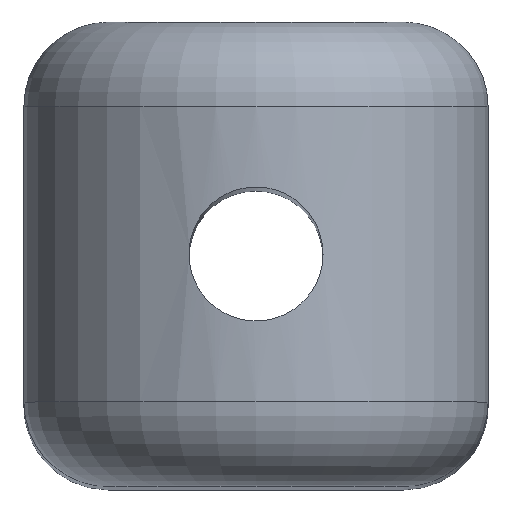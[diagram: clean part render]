
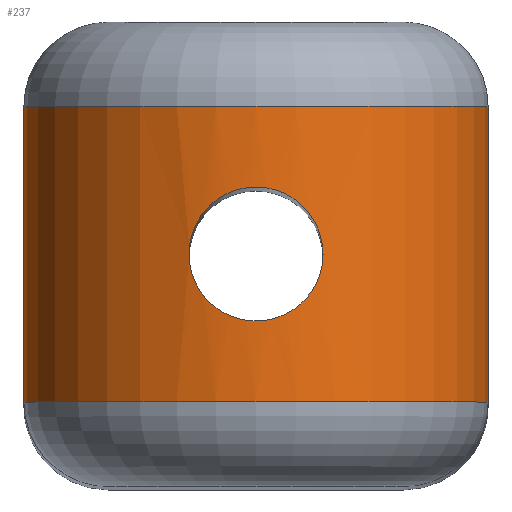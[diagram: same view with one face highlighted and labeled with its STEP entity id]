
A CAD part, top view. The second image highlights one B-rep face of the part: STEP entity #237.
In plain terms, the highlighted cylindrical face has radius 11 mm (diameter 22 mm), a partial arc.
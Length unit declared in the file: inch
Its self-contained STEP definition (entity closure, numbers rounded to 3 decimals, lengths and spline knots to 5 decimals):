
#16=FACE_BOUND('',#59,.T.);
#42=FACE_OUTER_BOUND('',#58,.T.);
#58=EDGE_LOOP('',(#210,#211,#212,#213));
#59=EDGE_LOOP('',(#214));
#60=B_SPLINE_CURVE_WITH_KNOTS('',3,(#361,#362,#363,#364,#365,#366,#367,
#368,#369,#370,#371,#372,#373,#374,#375,#376,#377,#378,#379,#380,#381,#382,
#383,#384,#385,#386,#387,#388,#389,#390,#391,#392,#393,#394),
 .UNSPECIFIED.,.T.,.F.,(4,2,2,2,2,2,2,2,2,2,2,2,2,2,2,2,4),(0.,0.12036,
0.24071,0.36104,0.48136,0.60169,
0.72201,0.84237,0.96272,1.08308,
1.20343,1.32376,1.44408,1.56441,1.68473,
1.80509,1.92544),.UNSPECIFIED.);
#71=LINE('',#427,#88);
#77=LINE('',#450,#94);
#88=VECTOR('',#320,0.55118);
#94=VECTOR('',#350,0.55118);
#98=CIRCLE('',#259,0.43307);
#102=CIRCLE('',#272,0.43307);
#105=VERTEX_POINT('',#359);
#107=VERTEX_POINT('',#397);
#111=VERTEX_POINT('',#406);
#116=VERTEX_POINT('',#426);
#118=VERTEX_POINT('',#432);
#124=EDGE_CURVE('',#105,#105,#60,.T.);
#130=EDGE_CURVE('',#111,#107,#98,.T.);
#140=EDGE_CURVE('',#107,#116,#71,.T.);
#147=EDGE_CURVE('',#116,#118,#102,.T.);
#152=EDGE_CURVE('',#111,#118,#77,.T.);
#210=ORIENTED_EDGE('',*,*,#130,.F.);
#211=ORIENTED_EDGE('',*,*,#152,.T.);
#212=ORIENTED_EDGE('',*,*,#147,.F.);
#213=ORIENTED_EDGE('',*,*,#140,.F.);
#214=ORIENTED_EDGE('',*,*,#124,.T.);
#222=CYLINDRICAL_SURFACE('',#279,0.43307);
#237=ADVANCED_FACE('',(#42,#16),#222,.T.);
#259=AXIS2_PLACEMENT_3D('',#408,#299,#300);
#272=AXIS2_PLACEMENT_3D('',#441,#336,#337);
#279=AXIS2_PLACEMENT_3D('',#452,#353,#354);
#299=DIRECTION('center_axis',(0.,-1.,0.));
#300=DIRECTION('ref_axis',(0.,0.,1.));
#320=DIRECTION('',(0.,1.,0.));
#336=DIRECTION('center_axis',(0.,1.,0.));
#337=DIRECTION('ref_axis',(0.,0.,1.));
#350=DIRECTION('',(0.,1.,0.));
#353=DIRECTION('center_axis',(0.,1.,0.));
#354=DIRECTION('ref_axis',(-1.,0.,0.));
#359=CARTESIAN_POINT('',(0.125,0.,4.31228));
#361=CARTESIAN_POINT('Ctrl Pts',(0.125,0.,4.31228));
#362=CARTESIAN_POINT('Ctrl Pts',(0.125,-0.01579,4.31228));
#363=CARTESIAN_POINT('Ctrl Pts',(0.12182,-0.03258,4.31327));
#364=CARTESIAN_POINT('Ctrl Pts',(0.10904,-0.06334,
4.31681));
#365=CARTESIAN_POINT('Ctrl Pts',(0.09944,-0.07734,
4.31929));
#366=CARTESIAN_POINT('Ctrl Pts',(0.07734,-0.09943,
4.3239));
#367=CARTESIAN_POINT('Ctrl Pts',(0.06335,-0.10904,4.32633));
#368=CARTESIAN_POINT('Ctrl Pts',(0.03257,-0.12183,
4.32976));
#369=CARTESIAN_POINT('Ctrl Pts',(0.01579,-0.125,4.33071));
#370=CARTESIAN_POINT('Ctrl Pts',(-0.01579,-0.125,4.33071));
#371=CARTESIAN_POINT('Ctrl Pts',(-0.03257,-0.12183,
4.32976));
#372=CARTESIAN_POINT('Ctrl Pts',(-0.06335,-0.10904,
4.32633));
#373=CARTESIAN_POINT('Ctrl Pts',(-0.07734,-0.09943,
4.3239));
#374=CARTESIAN_POINT('Ctrl Pts',(-0.09944,-0.07734,
4.31929));
#375=CARTESIAN_POINT('Ctrl Pts',(-0.10904,-0.06334,
4.31681));
#376=CARTESIAN_POINT('Ctrl Pts',(-0.12182,-0.03258,
4.31327));
#377=CARTESIAN_POINT('Ctrl Pts',(-0.125,-0.01579,4.31228));
#378=CARTESIAN_POINT('Ctrl Pts',(-0.125,0.01579,4.31228));
#379=CARTESIAN_POINT('Ctrl Pts',(-0.12182,0.03258,4.31327));
#380=CARTESIAN_POINT('Ctrl Pts',(-0.10904,0.06334,
4.31681));
#381=CARTESIAN_POINT('Ctrl Pts',(-0.09944,0.07734,
4.31929));
#382=CARTESIAN_POINT('Ctrl Pts',(-0.07734,0.09943,
4.3239));
#383=CARTESIAN_POINT('Ctrl Pts',(-0.06335,0.10904,4.32633));
#384=CARTESIAN_POINT('Ctrl Pts',(-0.03257,0.12183,
4.32976));
#385=CARTESIAN_POINT('Ctrl Pts',(-0.01579,0.125,4.33071));
#386=CARTESIAN_POINT('Ctrl Pts',(0.01579,0.125,4.33071));
#387=CARTESIAN_POINT('Ctrl Pts',(0.03257,0.12183,4.32976));
#388=CARTESIAN_POINT('Ctrl Pts',(0.06335,0.10904,4.32633));
#389=CARTESIAN_POINT('Ctrl Pts',(0.07734,0.09943,
4.3239));
#390=CARTESIAN_POINT('Ctrl Pts',(0.09944,0.07734,
4.31929));
#391=CARTESIAN_POINT('Ctrl Pts',(0.10904,0.06334,4.31681));
#392=CARTESIAN_POINT('Ctrl Pts',(0.12182,0.03258,4.31327));
#393=CARTESIAN_POINT('Ctrl Pts',(0.125,0.01579,4.31228));
#394=CARTESIAN_POINT('Ctrl Pts',(0.125,0.,4.31228));
#397=CARTESIAN_POINT('',(-0.43307,-0.27559,3.89764));
#406=CARTESIAN_POINT('',(0.43307,-0.27559,3.89764));
#408=CARTESIAN_POINT('Origin',(0.,-0.27559,
3.89764));
#426=CARTESIAN_POINT('',(-0.43307,0.27559,3.89764));
#427=CARTESIAN_POINT('',(-0.43307,-0.27559,3.89764));
#432=CARTESIAN_POINT('',(0.43307,0.27559,3.89764));
#441=CARTESIAN_POINT('Origin',(0.,0.27559,
3.89764));
#450=CARTESIAN_POINT('',(0.43307,-0.27559,3.89764));
#452=CARTESIAN_POINT('Origin',(0.,0.,3.89764));
